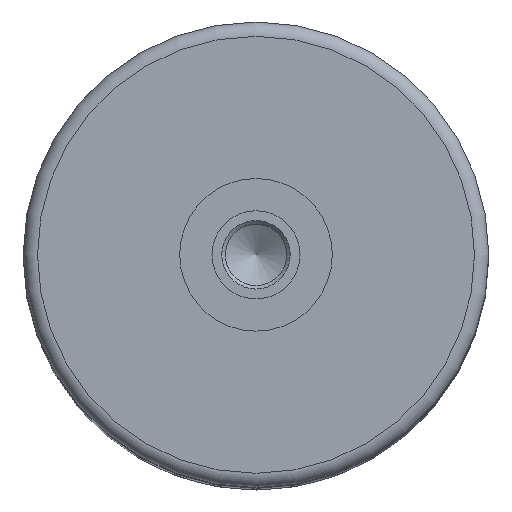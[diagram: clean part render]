
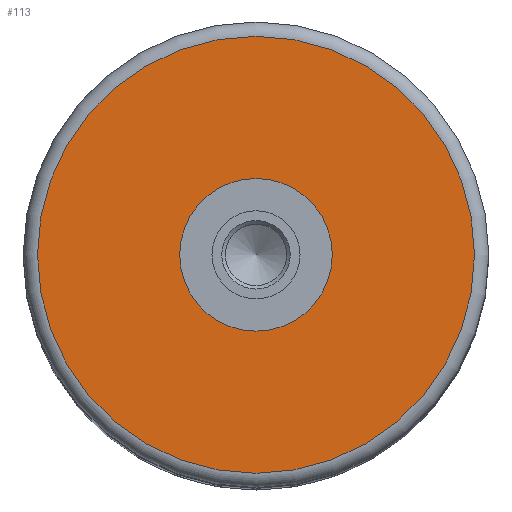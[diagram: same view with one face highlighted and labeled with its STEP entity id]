
A CAD part, top view. The second image highlights one B-rep face of the part: STEP entity #113.
In plain terms, the highlighted planar face has unit normal (0, 0, 1).
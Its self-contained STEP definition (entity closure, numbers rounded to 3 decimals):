
#113=ADVANCED_FACE('',(#200,#201),#202,.T.);
#200=FACE_BOUND('',#309,.T.);
#201=FACE_OUTER_BOUND('',#310,.T.);
#202=PLANE('',#311);
#309=EDGE_LOOP('',(#420));
#310=EDGE_LOOP('',(#421));
#311=AXIS2_PLACEMENT_3D('',#422,#423,#424);
#420=ORIENTED_EDGE('',*,*,#559,.F.);
#421=ORIENTED_EDGE('',*,*,#560,.T.);
#422=CARTESIAN_POINT('',(0.0,0.0,96.25));
#423=DIRECTION('',(0.0,0.0,1.0));
#424=DIRECTION('',(1.0,0.0,0.0));
#559=EDGE_CURVE('',#616,#616,#617,.T.);
#560=EDGE_CURVE('',#618,#618,#619,.T.);
#616=VERTEX_POINT('',#692);
#617=CIRCLE('',#693,10.65);
#618=VERTEX_POINT('',#694);
#619=CIRCLE('',#695,30.5);
#692=CARTESIAN_POINT('',(10.65,0.0,96.25));
#693=AXIS2_PLACEMENT_3D('',#979,#980,#981);
#694=CARTESIAN_POINT('',(30.5,0.0,96.25));
#695=AXIS2_PLACEMENT_3D('',#982,#983,#984);
#979=CARTESIAN_POINT('',(0.0,0.0,96.25));
#980=DIRECTION('',(0.0,0.0,1.0));
#981=DIRECTION('',(1.0,0.0,0.0));
#982=CARTESIAN_POINT('',(0.0,0.0,96.25));
#983=DIRECTION('',(0.0,0.0,1.0));
#984=DIRECTION('',(1.0,0.0,0.0));
